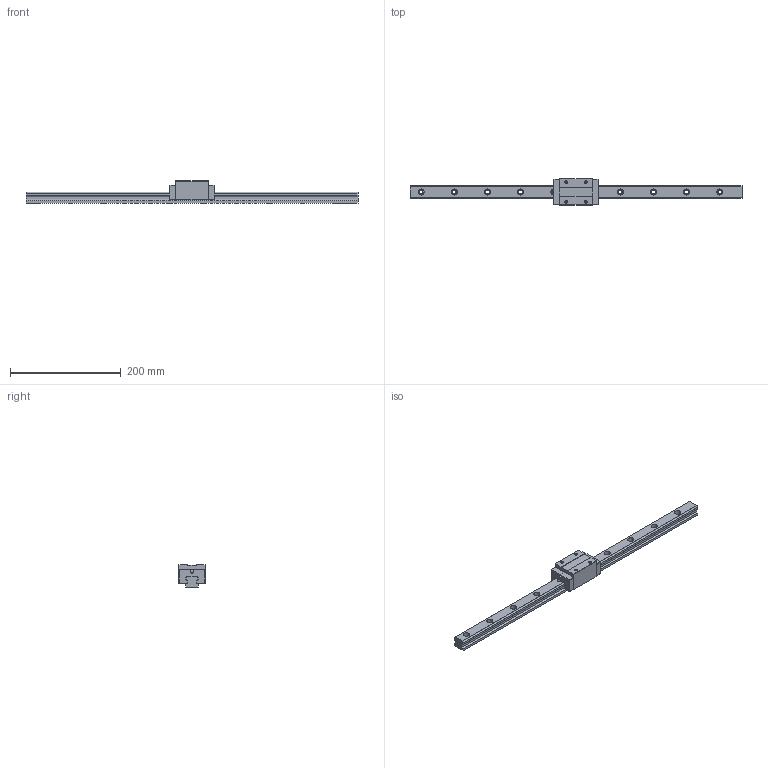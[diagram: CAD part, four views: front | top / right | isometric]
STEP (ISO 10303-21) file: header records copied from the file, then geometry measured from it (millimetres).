
FILE_DESCRIPTION (( 'STEP AP203' ), '1' );
FILE_NAME ('TRH25VN-XNC.STEP', '2024-08-16T06:38:18', ( '' ), ( '' ), 'SwSTEP 2.0', 'SolidWorks 2021', '' );
FILE_SCHEMA (( 'CONFIG_CONTROL_DESIGN' ));
Length unit declared in the file: millimetre
Products named in the file (1): TRH25VN-XNC
Bounding box: 600 x 48 x 40 mm (x, y, z)
Volume: 332250.1 mm3; surface area: 75600 mm2
Topology: 1 solids, 1 shells, 185 faces, 500 edges, 322 vertices
Faces by surface type: cylinder 88, plane 81, cone 16
Entity records: 5909 total; most frequent: DIRECTION 1050, CARTESIAN_POINT 1000, ORIENTED_EDGE 984, EDGE_CURVE 492, AXIS2_PLACEMENT_3D 372, VERTEX_POINT 322, VECTOR 306, LINE 306
